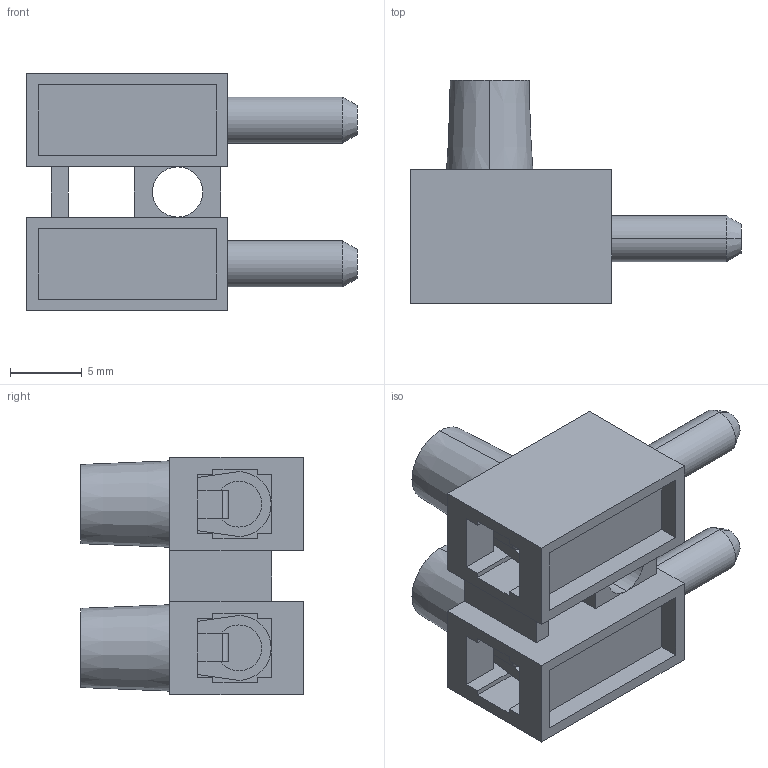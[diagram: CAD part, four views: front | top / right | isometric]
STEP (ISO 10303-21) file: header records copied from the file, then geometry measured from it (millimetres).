
FILE_DESCRIPTION (( 'STEP AP214' ), '1' );
FILE_NAME ('322-STFS-DS-02.STEP', '2008-04-15T02:05:54', ( ' ' ), ( '' ), 'SwSTEP 2.0', 'SolidWorks 2007', '' );
FILE_SCHEMA (( 'AUTOMOTIVE_DESIGN' ));
Length unit declared in the file: millimetre
Products named in the file (1): 322-STFS-DS-02
Bounding box: 23 x 15.5 x 16.5 mm (x, y, z)
Volume: 1770.5 mm3; surface area: 2214 mm2
Topology: 1 solids, 1 shells, 232 faces, 656 edges, 432 vertices
Faces by surface type: plane 148, cylinder 56, cone 18, bspline 10
Entity records: 8167 total; most frequent: CARTESIAN_POINT 2053, ORIENTED_EDGE 1312, DIRECTION 1228, EDGE_CURVE 656, LINE 446, VECTOR 446, VERTEX_POINT 432, AXIS2_PLACEMENT_3D 391
